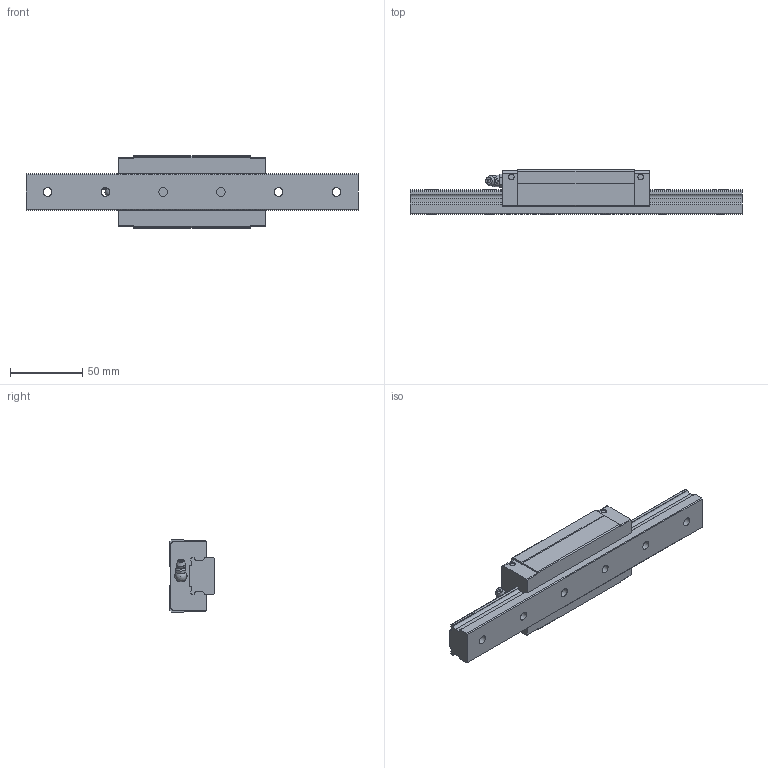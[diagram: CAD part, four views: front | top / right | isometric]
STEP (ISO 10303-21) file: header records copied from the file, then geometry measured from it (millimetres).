
FILE_DESCRIPTION(/* description */ ('STEP AP203'),/* implementation_level */ '2;1');
FILE_NAME(/* name */ 'SVS25LR1SS-230L_G15_0_B-M6F_64_0_0_0_1',/* time_stamp */ '2024-05-16T11:57:04+02:00',/* author */ ('License CC BY-ND 4.0'),/* organization */ ('CADENAS'),/* preprocessor_version */ 'ST-DEVELOPER v19.3',/* originating_system */ 'PARTsolutions',/* authorisation */ ' ');
FILE_SCHEMA (('CONFIG_CONTROL_DESIGN'));
Length unit declared in the file: millimetre
Products named in the file (4): SVS25LR1SS-230L_G15_0_B-M6F_64_0_0_0_1; SVR 25LR23015 R Track; SVR 25LR1SSB-M6F1 Slide; B-M6F_grease_nipple_joint1_SVR
Assembly tree (3 placements, depth 2):
  SVS25LR1SS-230L_G15_0_B-M6F_64_0_0_0_1
    SVR 25LR23015 R Track
    SVR 25LR1SSB-M6F1 Slide
    B-M6F_grease_nipple_joint1_SVR
Bounding box: 230 x 31 x 50 mm (x, y, z)
Volume: 185100.2 mm3; surface area: 44402.4 mm2
Topology: 3 solids, 3 shells, 182 faces, 476 edges, 311 vertices
Faces by surface type: plane 94, cylinder 58, cone 25, sphere 3, torus 2
Full cylindrical faces by diameter (mm): 3.9 x4, 4.917 x8, 6 x7, 8 x1, 9.5 x6
Entity records: 5353 total; most frequent: CARTESIAN_POINT 987, DIRECTION 896, ORIENTED_EDGE 808, EDGE_CURVE 404, AXIS2_PLACEMENT_3D 330, VERTEX_POINT 297, FACE_BOUND 263, EDGE_LOOP 255
